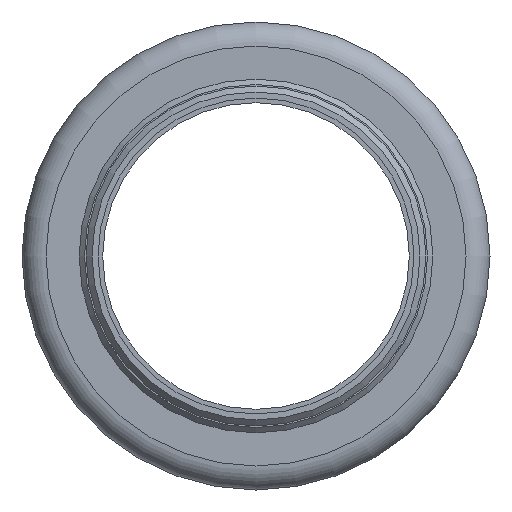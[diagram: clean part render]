
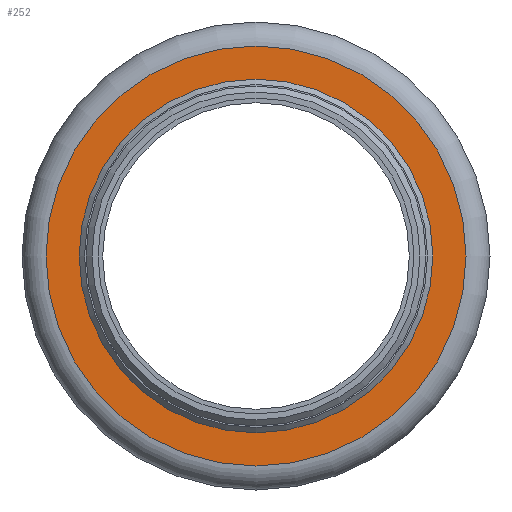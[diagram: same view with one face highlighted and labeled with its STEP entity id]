
A CAD part, front view. The second image highlights one B-rep face of the part: STEP entity #252.
In plain terms, the highlighted planar face has unit normal (0, -1, 0).
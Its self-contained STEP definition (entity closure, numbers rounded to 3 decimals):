
#40=PLANE('',#319);
#66=ORIENTED_EDGE('',*,*,#104,.T.);
#67=ORIENTED_EDGE('',*,*,#103,.F.);
#103=EDGE_CURVE('',#124,#124,#145,.T.);
#104=EDGE_CURVE('',#125,#125,#146,.T.);
#124=VERTEX_POINT('',#464);
#125=VERTEX_POINT('',#467);
#145=CIRCLE('',#318,57.15);
#146=CIRCLE('',#320,70.);
#171=EDGE_LOOP('',(#66));
#172=EDGE_LOOP('',(#67));
#213=FACE_BOUND('',#171,.T.);
#214=FACE_BOUND('',#172,.T.);
#252=ADVANCED_FACE('',(#213,#214),#40,.T.);
#318=AXIS2_PLACEMENT_3D('',#463,#378,#379);
#319=AXIS2_PLACEMENT_3D('',#465,#380,#381);
#320=AXIS2_PLACEMENT_3D('',#466,#382,#383);
#378=DIRECTION('',(0.,-1.,0.));
#379=DIRECTION('',(0.,0.,-1.));
#380=DIRECTION('',(0.,-1.,0.));
#381=DIRECTION('',(0.,0.,-1.));
#382=DIRECTION('',(0.,-1.,0.));
#383=DIRECTION('',(0.,0.,-1.));
#463=CARTESIAN_POINT('',(0.,0.,0.));
#464=CARTESIAN_POINT('',(0.,0.,-57.15));
#465=CARTESIAN_POINT('',(0.,0.,57.15));
#466=CARTESIAN_POINT('',(0.,0.,0.));
#467=CARTESIAN_POINT('',(0.,0.,-70.));
